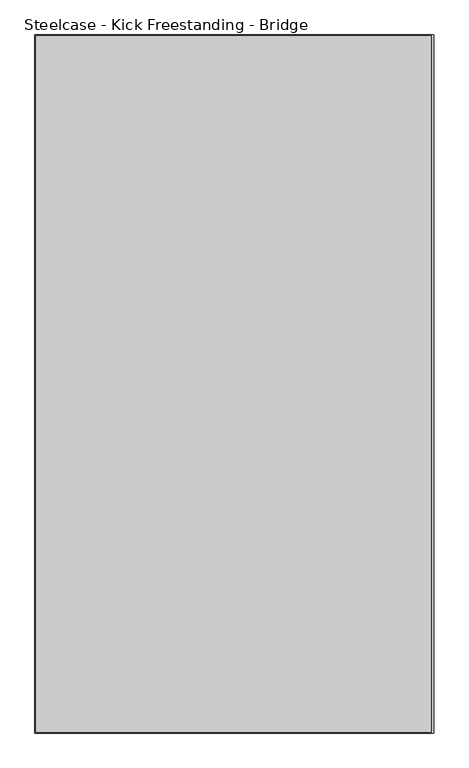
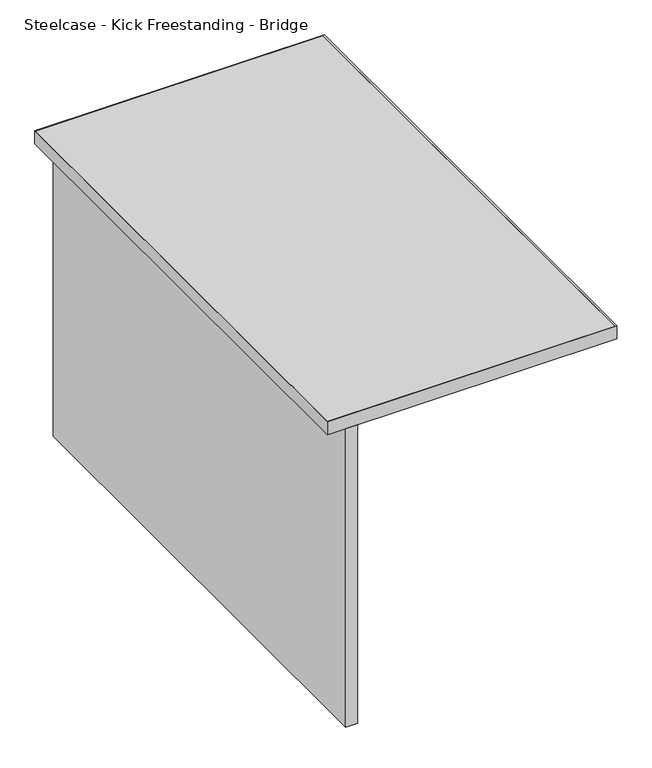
"""IFC4 building model written with IfcOpenShell, lengths in millimetres: furniture geometry, Steelcase - Kick Freestanding - Bridge : 24D x 42W - Full Panel."""

from ifc_helpers import new_model, si_unit, frame, origin, place, context, project, spatial, polyline, outline, extrude, source, transform, mapped, element, save


def steelcase_kick_freestanding_bridge_f9dcc133(model_context):
    return source(origin(), model_context, "Body", "SweptSolid", [
        extrude(outline(polyline([(2201.9594425, -1613.6145152), (2201.9594425, -546.8145152), (2227.3594425, -546.8145152), (2227.3594425, -1613.6145152), (2201.9594425, -1613.6145152)])), frame((0.0, 0.0, 18.542), z_axis=(0.0, 0.0, 1.0), x_axis=(1.0, 0.0, 0.0)), (0.0, 0.0, 1.0), 663.702),
        extrude(outline(polyline([(2769.2176592, -548.0845152), (2769.2176592, -1612.3445152), (2164.8500425, -1612.3445152), (2164.8500425, -548.0845152), (2769.2176592, -548.0845152)])), frame((0.0, 0.0, 682.244), z_axis=(0.0, 0.0, 1.0), x_axis=(1.0, 0.0, 0.0)), (0.0, 0.0, 1.0), 28.956),
        extrude(outline(polyline([(2773.4594425, -546.8145152), (2773.4594425, -1613.6145152), (2163.8594425, -1613.6145152), (2163.8594425, -546.8145152), (2773.4594425, -546.8145152)]), holes=[polyline([(2769.2176592, -548.0845152), (2164.8500425, -548.0845152), (2164.8500425, -1612.3445152), (2769.2176592, -1612.3445152), (2769.2176592, -548.0845152)])]), frame((0.0, 0.0, 682.244), z_axis=(0.0, 0.0, 1.0), x_axis=(1.0, 0.0, 0.0)), (0.0, 0.0, 1.0), 28.956),
    ])


if __name__ == "__main__":
    model = new_model("IFC4")
    model_context = context("Model", 3, world=origin())
    ifc_project = project(units=[si_unit("LENGTHUNIT", "METRE", prefix="MILLI")], contexts=[model_context])
    site = spatial("IfcSite", under=ifc_project)
    building = spatial("IfcBuilding", under=site)
    placement = place(None, origin())
    steelcase_kick_freestanding_bridge_shape = steelcase_kick_freestanding_bridge_f9dcc133(model_context)
    element("IfcFurniture", 1, ObjectType="Steelcase - Kick Freestanding - Bridge : 24D x 42W - Full Panel", at=placement, inside=building, context=model_context, shape_type="MappedRepresentation", body=[
        mapped(steelcase_kick_freestanding_bridge_shape, transform((0.0, 0.0, 0.0), x_axis=(1.0, 0.0, 0.0), y_axis=(0.0, 1.0, 0.0), z_axis=(0.0, 0.0, 1.0))),
    ])
    save(model, "model.ifc")
